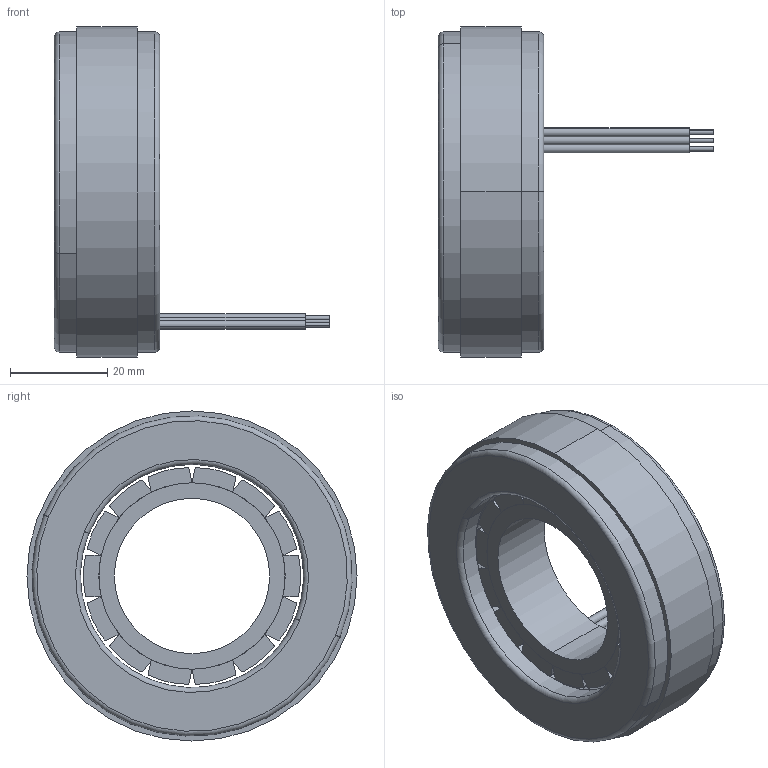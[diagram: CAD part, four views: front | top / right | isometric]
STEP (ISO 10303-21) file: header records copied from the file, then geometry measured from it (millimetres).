
FILE_DESCRIPTION (( 'STEP AP203' ), '1' );
FILE_NAME ('68LW03×°Åä.STEP', '2025-09-04T02:24:22', ( 'China' ), ( 'Microsoft' ), 'SwSTEP 2.0', 'SolidWorks 2017', '' );
FILE_SCHEMA (( 'CONFIG_CONTROL_DESIGN' ));
Length unit declared in the file: millimetre
Products named in the file (8): 竘堤盄; 棠詩; 諾陑粣; 蛌赽; 隅赽沺陑; 绕组端部; 68LW03蚾饜; 隅赽
Assembly tree (21 placements, depth 3):
  68LW03蚾饜
    隅赽
      隅赽沺陑
      绕组端部  x2
      竘堤盄
    蛌赽
      諾陑粣
      棠詩  x14
Bounding box: 56.7 x 68 x 68 mm (x, y, z)
Volume: 50871.7 mm3; surface area: 27883 mm2
Topology: 21 solids, 21 shells, 165 faces, 352 edges, 232 vertices
Faces by surface type: cylinder 84, plane 73, torus 8
Entity records: 2638 total; most frequent: DIRECTION 316, CARTESIAN_POINT 239, ORIENTED_EDGE 196, AXIS2_PLACEMENT_3D 141, EDGE_CURVE 98, PERSON_AND_ORGANIZATION 85, DATE_AND_TIME 82, CALENDAR_DATE 82
